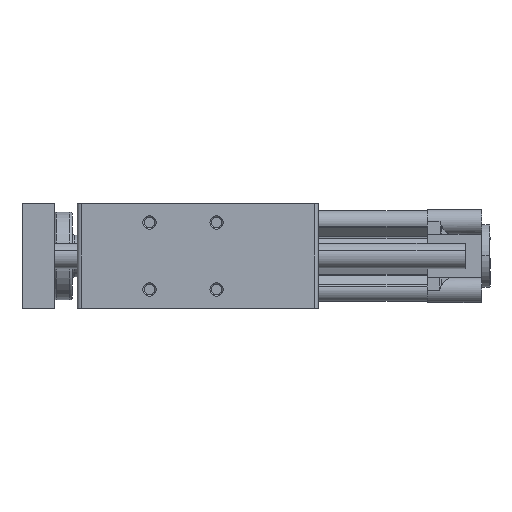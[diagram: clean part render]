
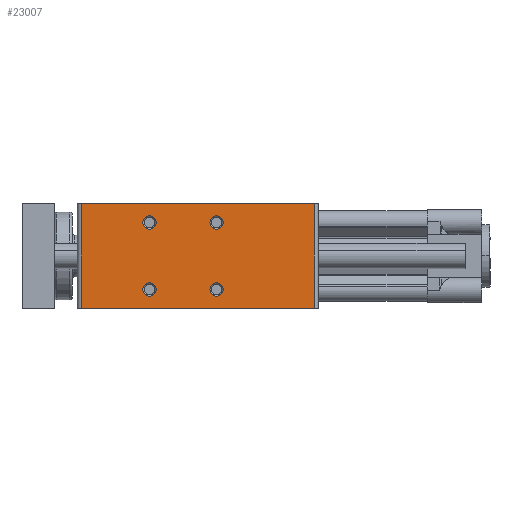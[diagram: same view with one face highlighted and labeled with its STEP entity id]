
A CAD part, left-side view. The second image highlights one B-rep face of the part: STEP entity #23007.
In plain terms, the highlighted planar face has unit normal (-1, 0, 0).
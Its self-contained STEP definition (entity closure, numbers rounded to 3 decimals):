
#318 = LINE ( 'NONE', #8484, #16505 ) ;
#341 = EDGE_CURVE ( 'NONE', #39962, #11037, #33996, .T. ) ;
#484 = CARTESIAN_POINT ( 'NONE',  ( 0., -66.5, 44.2 ) ) ;
#1414 = CARTESIAN_POINT ( 'NONE',  ( 0., -34.5, 9. ) ) ;
#1418 = ORIENTED_EDGE ( 'NONE', *, *, #29524, .F. ) ;
#2063 = CARTESIAN_POINT ( 'NONE',  ( 0., -66.5, 37.8 ) ) ;
#2296 = CIRCLE ( 'NONE', #20501, 3.2 ) ;
#2310 = FACE_BOUND ( 'NONE', #8796, .T. ) ;
#2437 = CARTESIAN_POINT ( 'NONE',  ( 0., -66.5, 5.8 ) ) ;
#2491 = EDGE_CURVE ( 'NONE', #26983, #7250, #23528, .T. ) ;
#2825 = CARTESIAN_POINT ( 'NONE',  ( 0., -2., 50. ) ) ;
#3049 = ORIENTED_EDGE ( 'NONE', *, *, #2491, .F. ) ;
#3211 = VERTEX_POINT ( 'NONE', #36383 ) ;
#3489 = CARTESIAN_POINT ( 'NONE',  ( 0., -34.5, 12.2 ) ) ;
#3859 = DIRECTION ( 'NONE',  ( -1., 0., 0. ) ) ;
#3984 = ORIENTED_EDGE ( 'NONE', *, *, #11869, .F. ) ;
#4199 = PLANE ( 'NONE',  #18744 ) ;
#4252 = FACE_BOUND ( 'NONE', #25222, .T. ) ;
#4343 = DIRECTION ( 'NONE',  ( 0., 1., 0. ) ) ;
#4546 = DIRECTION ( 'NONE',  ( 0., 0., -1. ) ) ;
#5201 = ORIENTED_EDGE ( 'NONE', *, *, #21343, .F. ) ;
#5489 = DIRECTION ( 'NONE',  ( 0., -1., 0. ) ) ;
#5576 = CARTESIAN_POINT ( 'NONE',  ( 0., -34.5, 44.2 ) ) ;
#5665 = CIRCLE ( 'NONE', #30769, 3.2 ) ;
#5979 = DIRECTION ( 'NONE',  ( -1., 0., 0. ) ) ;
#6639 = DIRECTION ( 'NONE',  ( -1., 0., 0. ) ) ;
#7010 = ORIENTED_EDGE ( 'NONE', *, *, #15033, .T. ) ;
#7250 = VERTEX_POINT ( 'NONE', #484 ) ;
#8484 = CARTESIAN_POINT ( 'NONE',  ( 0., 0., 50. ) ) ;
#8796 = EDGE_LOOP ( 'NONE', ( #1418, #37455 ) ) ;
#8901 = EDGE_CURVE ( 'NONE', #21974, #17804, #27279, .T. ) ;
#9058 = DIRECTION ( 'NONE',  ( 0., 0., -1. ) ) ;
#9328 = ORIENTED_EDGE ( 'NONE', *, *, #40445, .F. ) ;
#9344 = VECTOR ( 'NONE', #28322, 1000. ) ;
#11037 = VERTEX_POINT ( 'NONE', #21677 ) ;
#11267 = EDGE_CURVE ( 'NONE', #39602, #25701, #16475, .T. ) ;
#11869 = EDGE_CURVE ( 'NONE', #7250, #26983, #5665, .T. ) ;
#12633 = CIRCLE ( 'NONE', #39407, 3.2 ) ;
#12863 = CARTESIAN_POINT ( 'NONE',  ( 0., 0., 0. ) ) ;
#13972 = CARTESIAN_POINT ( 'NONE',  ( 0., -66.5, 12.2 ) ) ;
#14724 = AXIS2_PLACEMENT_3D ( 'NONE', #1414, #23246, #4546 ) ;
#14935 = CARTESIAN_POINT ( 'NONE',  ( 0., -34.5, 37.8 ) ) ;
#14993 = DIRECTION ( 'NONE',  ( -1., 0., 0. ) ) ;
#15033 = EDGE_CURVE ( 'NONE', #31270, #39962, #33477, .T. ) ;
#15809 = VECTOR ( 'NONE', #9058, 1000. ) ;
#16044 = DIRECTION ( 'NONE',  ( -1., 0., 0. ) ) ;
#16142 = CARTESIAN_POINT ( 'NONE',  ( 0., -66.5, 9. ) ) ;
#16475 = CIRCLE ( 'NONE', #36524, 3.2 ) ;
#16505 = VECTOR ( 'NONE', #5489, 1000. ) ;
#16800 = CARTESIAN_POINT ( 'NONE',  ( 0., 0., 50. ) ) ;
#17147 = CIRCLE ( 'NONE', #17860, 3.2 ) ;
#17226 = DIRECTION ( 'NONE',  ( -1., 0., 0. ) ) ;
#17337 = VECTOR ( 'NONE', #22149, 1000. ) ;
#17734 = LINE ( 'NONE', #37644, #9344 ) ;
#17804 = VERTEX_POINT ( 'NONE', #33195 ) ;
#17860 = AXIS2_PLACEMENT_3D ( 'NONE', #16142, #38016, #19282 ) ;
#18092 = EDGE_CURVE ( 'NONE', #3211, #11037, #17734, .T. ) ;
#18545 = EDGE_LOOP ( 'NONE', ( #9328, #30524 ) ) ;
#18744 = AXIS2_PLACEMENT_3D ( 'NONE', #16800, #23050, #4343 ) ;
#18926 = FACE_OUTER_BOUND ( 'NONE', #40132, .T. ) ;
#19051 = VERTEX_POINT ( 'NONE', #13972 ) ;
#19282 = DIRECTION ( 'NONE',  ( 0., 0., -1. ) ) ;
#19547 = ORIENTED_EDGE ( 'NONE', *, *, #23873, .F. ) ;
#20453 = ORIENTED_EDGE ( 'NONE', *, *, #18092, .F. ) ;
#20501 = AXIS2_PLACEMENT_3D ( 'NONE', #33757, #14993, #36875 ) ;
#21343 = EDGE_CURVE ( 'NONE', #25701, #39602, #12633, .T. ) ;
#21677 = CARTESIAN_POINT ( 'NONE',  ( 0., -113., 0. ) ) ;
#21704 = VERTEX_POINT ( 'NONE', #2437 ) ;
#21974 = VERTEX_POINT ( 'NONE', #3489 ) ;
#22149 = DIRECTION ( 'NONE',  ( 0., -1., 0. ) ) ;
#22237 = ORIENTED_EDGE ( 'NONE', *, *, #11267, .F. ) ;
#22573 = CARTESIAN_POINT ( 'NONE',  ( 0., -66.5, 41. ) ) ;
#23007 = ADVANCED_FACE ( 'NONE', ( #4252, #30220, #18926, #35596, #2310 ), #4199, .F. ) ;
#23050 = DIRECTION ( 'NONE',  ( 1., 0., 0. ) ) ;
#23246 = DIRECTION ( 'NONE',  ( -1., 0., 0. ) ) ;
#23470 = AXIS2_PLACEMENT_3D ( 'NONE', #35956, #17226, #39071 ) ;
#23528 = CIRCLE ( 'NONE', #36064, 3.2 ) ;
#23873 = EDGE_CURVE ( 'NONE', #31270, #3211, #318, .T. ) ;
#24702 = CARTESIAN_POINT ( 'NONE',  ( 0., -34.5, 41. ) ) ;
#25222 = EDGE_LOOP ( 'NONE', ( #3049, #3984 ) ) ;
#25361 = CARTESIAN_POINT ( 'NONE',  ( 0., -34.5, 41. ) ) ;
#25455 = CARTESIAN_POINT ( 'NONE',  ( 0., -2., 50. ) ) ;
#25701 = VERTEX_POINT ( 'NONE', #5576 ) ;
#25712 = DIRECTION ( 'NONE',  ( 0., 0., -1. ) ) ;
#26983 = VERTEX_POINT ( 'NONE', #2063 ) ;
#27279 = CIRCLE ( 'NONE', #14724, 3.2 ) ;
#27853 = DIRECTION ( 'NONE',  ( 0., 0., -1. ) ) ;
#28322 = DIRECTION ( 'NONE',  ( 0., 0., -1. ) ) ;
#28525 = DIRECTION ( 'NONE',  ( 0., 0., -1. ) ) ;
#29524 = EDGE_CURVE ( 'NONE', #17804, #21974, #2296, .T. ) ;
#29895 = EDGE_LOOP ( 'NONE', ( #22237, #5201 ) ) ;
#30220 = FACE_BOUND ( 'NONE', #29895, .T. ) ;
#30436 = CIRCLE ( 'NONE', #23470, 3.2 ) ;
#30524 = ORIENTED_EDGE ( 'NONE', *, *, #34754, .F. ) ;
#30769 = AXIS2_PLACEMENT_3D ( 'NONE', #34820, #16044, #37924 ) ;
#31270 = VERTEX_POINT ( 'NONE', #25455 ) ;
#32201 = CARTESIAN_POINT ( 'NONE',  ( 0., -2., 0. ) ) ;
#33195 = CARTESIAN_POINT ( 'NONE',  ( 0., -34.5, 5.8 ) ) ;
#33477 = LINE ( 'NONE', #2825, #15809 ) ;
#33757 = CARTESIAN_POINT ( 'NONE',  ( 0., -34.5, 9. ) ) ;
#33996 = LINE ( 'NONE', #12863, #17337 ) ;
#34754 = EDGE_CURVE ( 'NONE', #19051, #21704, #30436, .T. ) ;
#34820 = CARTESIAN_POINT ( 'NONE',  ( 0., -66.5, 41. ) ) ;
#35057 = ORIENTED_EDGE ( 'NONE', *, *, #341, .T. ) ;
#35596 = FACE_BOUND ( 'NONE', #18545, .T. ) ;
#35956 = CARTESIAN_POINT ( 'NONE',  ( 0., -66.5, 9. ) ) ;
#36064 = AXIS2_PLACEMENT_3D ( 'NONE', #22573, #3859, #25712 ) ;
#36383 = CARTESIAN_POINT ( 'NONE',  ( 0., -113., 50. ) ) ;
#36524 = AXIS2_PLACEMENT_3D ( 'NONE', #25361, #6639, #28525 ) ;
#36875 = DIRECTION ( 'NONE',  ( 0., 0., -1. ) ) ;
#37455 = ORIENTED_EDGE ( 'NONE', *, *, #8901, .F. ) ;
#37644 = CARTESIAN_POINT ( 'NONE',  ( 0., -113., 50. ) ) ;
#37924 = DIRECTION ( 'NONE',  ( 0., 0., -1. ) ) ;
#38016 = DIRECTION ( 'NONE',  ( -1., 0., 0. ) ) ;
#39071 = DIRECTION ( 'NONE',  ( 0., 0., -1. ) ) ;
#39407 = AXIS2_PLACEMENT_3D ( 'NONE', #24702, #5979, #27853 ) ;
#39602 = VERTEX_POINT ( 'NONE', #14935 ) ;
#39962 = VERTEX_POINT ( 'NONE', #32201 ) ;
#40132 = EDGE_LOOP ( 'NONE', ( #35057, #20453, #19547, #7010 ) ) ;
#40445 = EDGE_CURVE ( 'NONE', #21704, #19051, #17147, .T. ) ;
